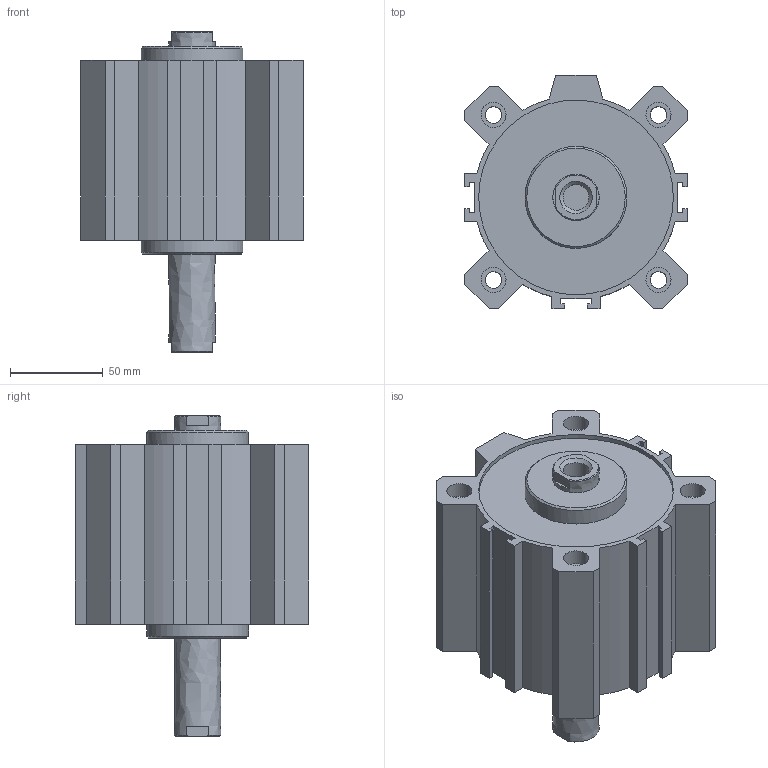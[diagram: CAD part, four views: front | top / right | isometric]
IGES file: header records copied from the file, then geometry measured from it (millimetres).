
Global section: file name: 1514_100_0045; native system: Autodesk Inventor 2014; preprocessor: unknown; author: A. Manieri; date: 20160824.163239; units: millimetre
Bounding box: 120 x 126 x 173 mm (x, y, z)
Volume: 836149.8 mm3; surface area: 173725.9 mm2
Topology: 2 solids, 2 shells, 132 faces, 346 edges, 238 vertices
Faces by surface type: bspline 132
